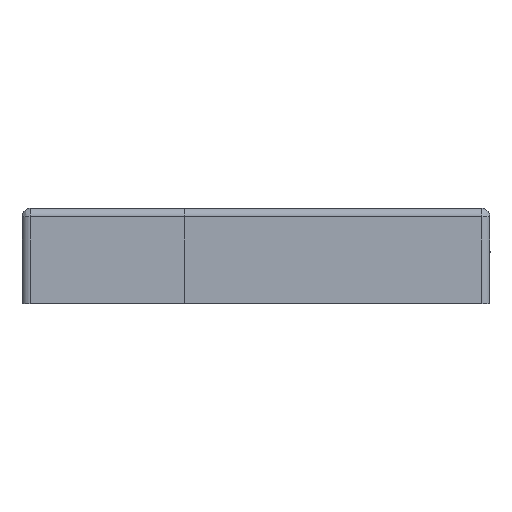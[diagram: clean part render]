
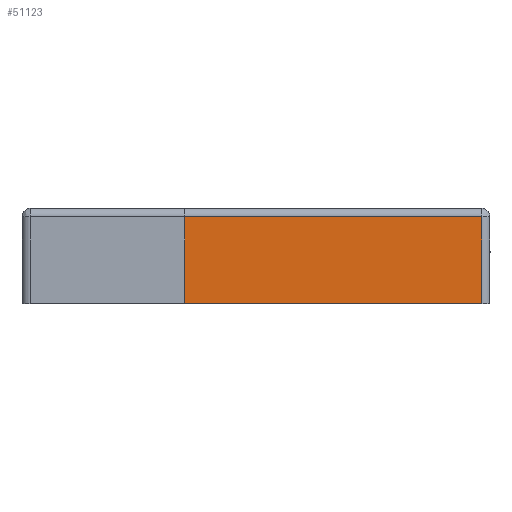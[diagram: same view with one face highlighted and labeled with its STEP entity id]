
A CAD part, left-side view. The second image highlights one B-rep face of the part: STEP entity #51123.
In plain terms, the highlighted planar face has unit normal (-1, 0, 0).
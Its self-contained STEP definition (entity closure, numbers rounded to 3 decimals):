
#1949 = ORIENTED_EDGE ( 'NONE', *, *, #24194, .F. ) ;
#2121 = EDGE_CURVE ( 'NONE', #46856, #26827, #41190, .T. ) ;
#4242 = VECTOR ( 'NONE', #42376, 1000. ) ;
#4243 = LINE ( 'NONE', #53231, #24537 ) ;
#5137 = CARTESIAN_POINT ( 'NONE',  ( -21.131, 136.681, 110.822 ) ) ;
#9775 = VECTOR ( 'NONE', #33389, 1000. ) ;
#11077 = CARTESIAN_POINT ( 'NONE',  ( -21.131, 107.681, 102.322 ) ) ;
#12287 = ORIENTED_EDGE ( 'NONE', *, *, #2121, .F. ) ;
#15203 = LINE ( 'NONE', #25280, #20257 ) ;
#18519 = CARTESIAN_POINT ( 'NONE',  ( -21.131, 83.681, 102.322 ) ) ;
#20257 = VECTOR ( 'NONE', #48687, 1000. ) ;
#20599 = PLANE ( 'NONE',  #48938 ) ;
#24194 = EDGE_CURVE ( 'NONE', #29212, #39796, #15203, .T. ) ;
#24537 = VECTOR ( 'NONE', #53827, 1000. ) ;
#25280 = CARTESIAN_POINT ( 'NONE',  ( -21.131, 83.681, 110.822 ) ) ;
#26827 = VERTEX_POINT ( 'NONE', #40593 ) ;
#27473 = EDGE_LOOP ( 'NONE', ( #38623, #1949, #28640, #12287 ) ) ;
#28640 = ORIENTED_EDGE ( 'NONE', *, *, #42812, .F. ) ;
#29212 = VERTEX_POINT ( 'NONE', #38187 ) ;
#29908 = DIRECTION ( 'NONE',  ( 0., 0., 1. ) ) ;
#32604 = FACE_OUTER_BOUND ( 'NONE', #27473, .T. ) ;
#33389 = DIRECTION ( 'NONE',  ( 0., -1., 0. ) ) ;
#37550 = EDGE_CURVE ( 'NONE', #46856, #39796, #48810, .T. ) ;
#38187 = CARTESIAN_POINT ( 'NONE',  ( -21.131, 83.681, 117.822 ) ) ;
#38623 = ORIENTED_EDGE ( 'NONE', *, *, #37550, .T. ) ;
#39796 = VERTEX_POINT ( 'NONE', #18519 ) ;
#40593 = CARTESIAN_POINT ( 'NONE',  ( -21.131, 136.681, 117.822 ) ) ;
#41190 = LINE ( 'NONE', #5137, #4242 ) ;
#41607 = CARTESIAN_POINT ( 'NONE',  ( -21.131, 136.681, 102.322 ) ) ;
#42376 = DIRECTION ( 'NONE',  ( 0., 0., 1. ) ) ;
#42812 = EDGE_CURVE ( 'NONE', #26827, #29212, #4243, .T. ) ;
#46856 = VERTEX_POINT ( 'NONE', #41607 ) ;
#48687 = DIRECTION ( 'NONE',  ( 0., 0., -1. ) ) ;
#48810 = LINE ( 'NONE', #51495, #9775 ) ;
#48938 = AXIS2_PLACEMENT_3D ( 'NONE', #11077, #56986, #29908 ) ;
#51123 = ADVANCED_FACE ( 'NONE', ( #32604 ), #20599, .T. ) ;
#51495 = CARTESIAN_POINT ( 'NONE',  ( -21.131, 122.681, 102.322 ) ) ;
#53231 = CARTESIAN_POINT ( 'NONE',  ( -21.131, -22.469, 117.822 ) ) ;
#53827 = DIRECTION ( 'NONE',  ( 0., -1., 0. ) ) ;
#56986 = DIRECTION ( 'NONE',  ( -1., 0., 0. ) ) ;
